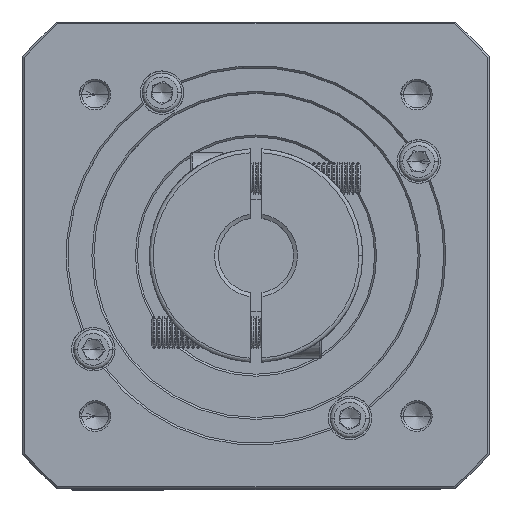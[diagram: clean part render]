
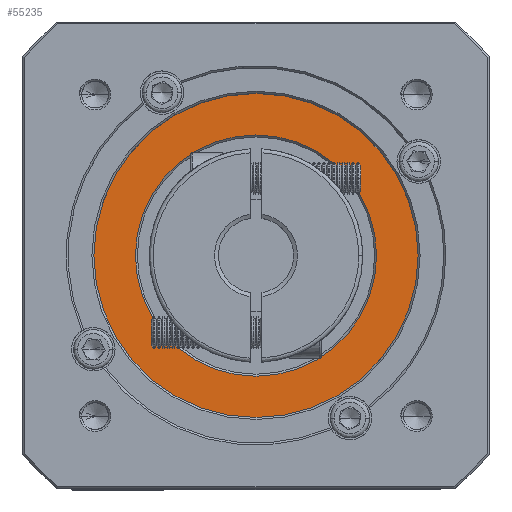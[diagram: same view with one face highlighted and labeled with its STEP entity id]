
A CAD part, top view. The second image highlights one B-rep face of the part: STEP entity #55235.
In plain terms, the highlighted planar face has unit normal (0, 0, 1).
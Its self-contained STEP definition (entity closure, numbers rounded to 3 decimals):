
#479 = CIRCLE ( 'NONE', #74461, 30.5 ) ;
#4035 = ORIENTED_EDGE ( 'NONE', *, *, #104634, .T. ) ;
#4085 = EDGE_LOOP ( 'NONE', ( #17822, #87194 ) ) ;
#6029 = CIRCLE ( 'NONE', #6546, 41. ) ;
#6546 = AXIS2_PLACEMENT_3D ( 'NONE', #44029, #70336, #24767 ) ;
#6608 = CIRCLE ( 'NONE', #65824, 30.5 ) ;
#13741 = EDGE_CURVE ( 'NONE', #86272, #96292, #6608, .T. ) ;
#17822 = ORIENTED_EDGE ( 'NONE', *, *, #108262, .T. ) ;
#18207 = VERTEX_POINT ( 'NONE', #109139 ) ;
#18242 = CARTESIAN_POINT ( 'NONE',  ( 72.343, -80.873, -54.022 ) ) ;
#23668 = CARTESIAN_POINT ( 'NONE',  ( 72.343, -80.873, -54.022 ) ) ;
#24767 = DIRECTION ( 'NONE',  ( 1., 0., 0. ) ) ;
#25749 = FACE_BOUND ( 'NONE', #102788, .T. ) ;
#28337 = AXIS2_PLACEMENT_3D ( 'NONE', #18242, #36286, #99133 ) ;
#29116 = CARTESIAN_POINT ( 'NONE',  ( 72.343, -80.873, -54.022 ) ) ;
#36286 = DIRECTION ( 'NONE',  ( 0., 0., 1. ) ) ;
#41290 = CARTESIAN_POINT ( 'NONE',  ( 72.343, -80.873, -54.022 ) ) ;
#44029 = CARTESIAN_POINT ( 'NONE',  ( 72.343, -80.873, -54.022 ) ) ;
#49634 = FACE_OUTER_BOUND ( 'NONE', #4085, .T. ) ;
#50032 = DIRECTION ( 'NONE',  ( 1., 0., 0. ) ) ;
#55235 = ADVANCED_FACE ( 'NONE', ( #49634, #25749 ), #82262, .T. ) ;
#55358 = EDGE_CURVE ( 'NONE', #18207, #93250, #6029, .T. ) ;
#55472 = DIRECTION ( 'NONE',  ( 0., -1., 0. ) ) ;
#58680 = CARTESIAN_POINT ( 'NONE',  ( 72.343, -111.373, -54.022 ) ) ;
#59250 = CIRCLE ( 'NONE', #87632, 41. ) ;
#61479 = CARTESIAN_POINT ( 'NONE',  ( 113.343, -80.873, -54.022 ) ) ;
#65824 = AXIS2_PLACEMENT_3D ( 'NONE', #41290, #96246, #87610 ) ;
#68413 = DIRECTION ( 'NONE',  ( 0., 0., 1. ) ) ;
#70336 = DIRECTION ( 'NONE',  ( 0., 0., 1. ) ) ;
#74461 = AXIS2_PLACEMENT_3D ( 'NONE', #29116, #110335, #55472 ) ;
#82262 = PLANE ( 'NONE',  #28337 ) ;
#86272 = VERTEX_POINT ( 'NONE', #58680 ) ;
#87194 = ORIENTED_EDGE ( 'NONE', *, *, #55358, .T. ) ;
#87610 = DIRECTION ( 'NONE',  ( 0., -1., 0. ) ) ;
#87632 = AXIS2_PLACEMENT_3D ( 'NONE', #23668, #68413, #50032 ) ;
#93250 = VERTEX_POINT ( 'NONE', #61479 ) ;
#94501 = CARTESIAN_POINT ( 'NONE',  ( 72.343, -50.373, -54.022 ) ) ;
#96246 = DIRECTION ( 'NONE',  ( 0., 0., -1. ) ) ;
#96292 = VERTEX_POINT ( 'NONE', #94501 ) ;
#99133 = DIRECTION ( 'NONE',  ( 1., 0., 0. ) ) ;
#100157 = ORIENTED_EDGE ( 'NONE', *, *, #13741, .T. ) ;
#102788 = EDGE_LOOP ( 'NONE', ( #100157, #4035 ) ) ;
#104634 = EDGE_CURVE ( 'NONE', #96292, #86272, #479, .T. ) ;
#108262 = EDGE_CURVE ( 'NONE', #93250, #18207, #59250, .T. ) ;
#109139 = CARTESIAN_POINT ( 'NONE',  ( 31.343, -80.873, -54.022 ) ) ;
#110335 = DIRECTION ( 'NONE',  ( 0., 0., -1. ) ) ;
